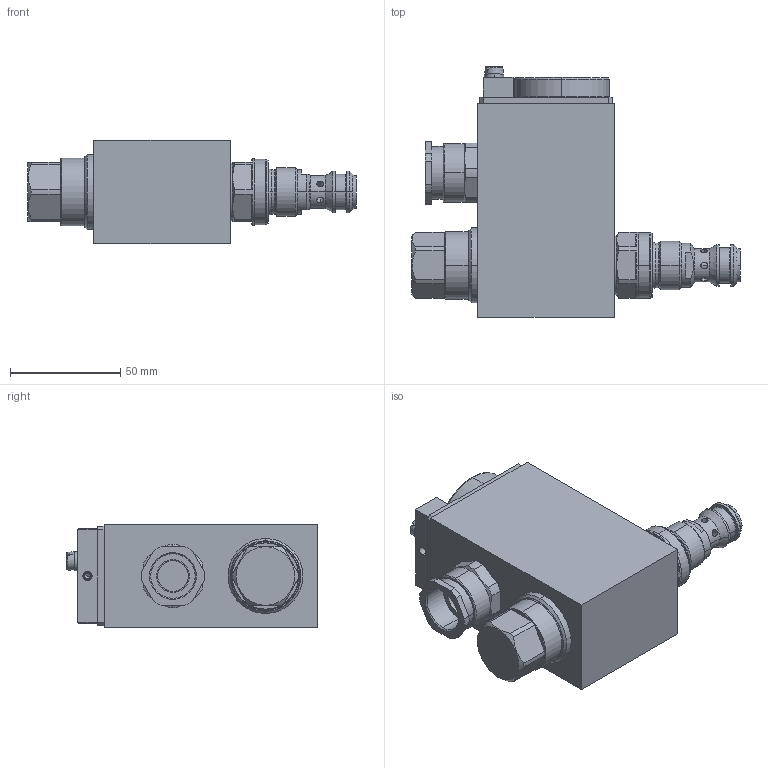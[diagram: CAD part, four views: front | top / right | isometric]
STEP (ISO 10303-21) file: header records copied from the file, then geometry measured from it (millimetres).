
FILE_DESCRIPTION (( 'STEP AP214' ), '1' );
FILE_NAME ('SDYPM22-AB-K10.STEP', '2021-02-24T11:09:13', ( '' ), ( '' ), 'SwSTEP 2.0', 'SolidWorks 2020', '' );
FILE_SCHEMA (( 'AUTOMOTIVE_DESIGN' ));
Length unit declared in the file: millimetre
Products named in the file (1): SDYPM22-AB-K10
Bounding box: 149.2 x 113.7 x 47 mm (x, y, z)
Volume: 357001.4 mm3; surface area: 43285.1 mm2
Topology: 1 solids, 3 shells, 427 faces, 1033 edges, 646 vertices
Faces by surface type: plane 179, cylinder 131, cone 67, torus 42, bspline 8
Entity records: 18279 total; most frequent: CARTESIAN_POINT 3550, DIRECTION 2151, ORIENTED_EDGE 2046, EDGE_CURVE 1023, AXIS2_PLACEMENT_3D 846, VERTEX_POINT 646, EDGE_LOOP 475, LINE 459
